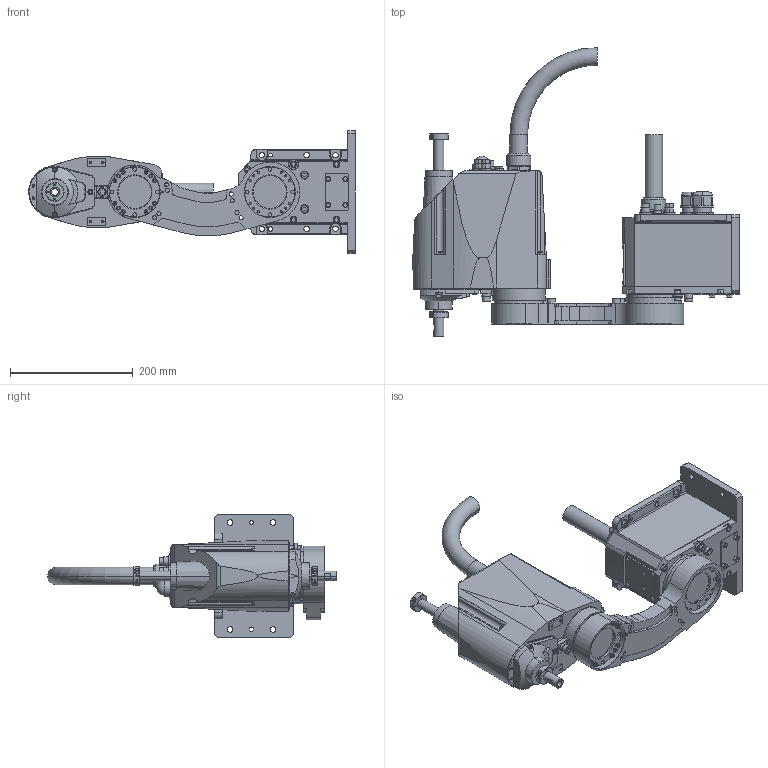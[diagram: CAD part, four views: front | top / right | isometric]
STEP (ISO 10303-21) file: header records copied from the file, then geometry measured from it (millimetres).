
FILE_DESCRIPTION( ( '' ), '1' );
FILE_NAME( '//expscmdclustefs.cadenas.external/client_exchange/iodir/jobs/output/wkb51512748_no0/STEP/G3_351SM_R_2_14b.stp', '2012-11-22T15:41:35', ( '' ), ( '' ), ' ', ' ', ' ' );
FILE_SCHEMA( ( 'automotive_design' ) );
Length unit declared in the file: millimetre
Products named in the file (4): 1; 2; 3; 4
Bounding box: 531.5 x 470 x 200 mm (x, y, z)
Volume: 7653383.3 mm3; surface area: 553561.9 mm2
Topology: 4 solids, 4 shells, 1861 faces, 4607 edges, 2976 vertices
Faces by surface type: plane 884, cylinder 679, cone 193, torus 80, sphere 25
Entity records: 109383 total; most frequent: CARTESIAN_POINT 10953, DIRECTION 10015, STYLED_ITEM 9416, PRESENTATION_STYLE_ASSIGNMENT 9416, COLOUR_RGB 9416, ORIENTED_EDGE 9150, EDGE_CURVE 4575, CURVE_STYLE 4575
